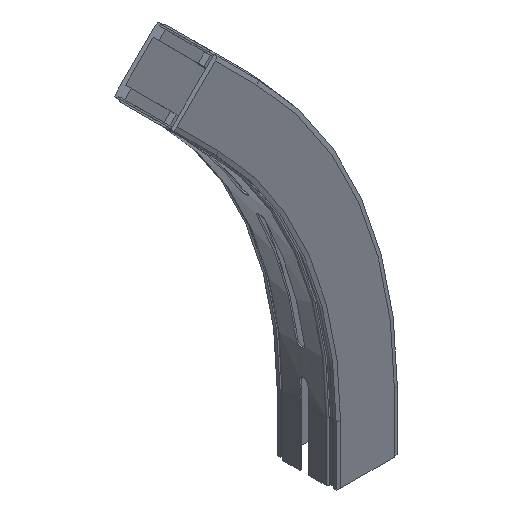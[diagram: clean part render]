
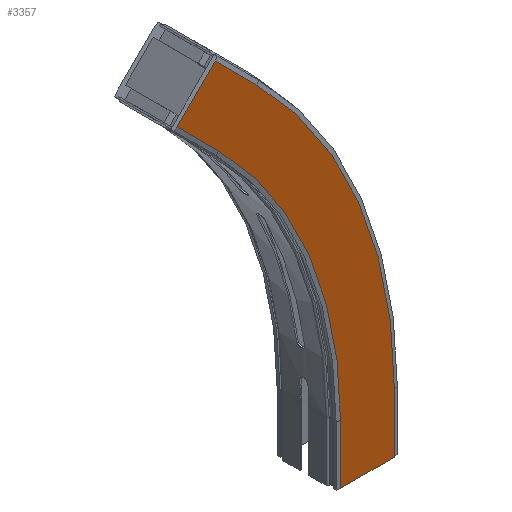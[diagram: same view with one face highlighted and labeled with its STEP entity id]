
A CAD part, isometric view. The second image highlights one B-rep face of the part: STEP entity #3357.
In plain terms, the highlighted planar face has unit normal (0, -1, 0).
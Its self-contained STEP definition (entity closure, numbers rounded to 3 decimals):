
#349=FACE_OUTER_BOUND('',#529,.T.);
#529=EDGE_LOOP('',(#3063,#3064,#3065,#3066,#3067,#3068,#3069,#3070));
#619=CIRCLE('',#3610,636.5);
#622=CIRCLE('',#3616,563.5);
#940=LINE('',#5989,#1286);
#945=LINE('',#5998,#1291);
#947=LINE('',#6003,#1293);
#962=LINE('',#6043,#1308);
#967=LINE('',#6054,#1313);
#968=LINE('',#6056,#1314);
#1286=VECTOR('',#4383,10.);
#1291=VECTOR('',#4390,10.);
#1293=VECTOR('',#4394,10.);
#1308=VECTOR('',#4435,10.);
#1313=VECTOR('',#4448,10.);
#1314=VECTOR('',#4451,10.);
#1610=VERTEX_POINT('',#5986);
#1611=VERTEX_POINT('',#5988);
#1614=VERTEX_POINT('',#5995);
#1615=VERTEX_POINT('',#6000);
#1625=VERTEX_POINT('',#6026);
#1627=VERTEX_POINT('',#6036);
#1628=VERTEX_POINT('',#6041);
#1630=VERTEX_POINT('',#6052);
#2078=EDGE_CURVE('',#1611,#1610,#940,.T.);
#2083=EDGE_CURVE('',#1611,#1614,#945,.T.);
#2085=EDGE_CURVE('',#1610,#1615,#947,.T.);
#2098=EDGE_CURVE('',#1615,#1625,#619,.T.);
#2104=EDGE_CURVE('',#1614,#1627,#622,.T.);
#2106=EDGE_CURVE('',#1625,#1628,#962,.T.);
#2111=EDGE_CURVE('',#1627,#1630,#967,.T.);
#2112=EDGE_CURVE('',#1628,#1630,#968,.T.);
#3063=ORIENTED_EDGE('',*,*,#2112,.T.);
#3064=ORIENTED_EDGE('',*,*,#2111,.F.);
#3065=ORIENTED_EDGE('',*,*,#2104,.F.);
#3066=ORIENTED_EDGE('',*,*,#2083,.F.);
#3067=ORIENTED_EDGE('',*,*,#2078,.T.);
#3068=ORIENTED_EDGE('',*,*,#2085,.T.);
#3069=ORIENTED_EDGE('',*,*,#2098,.T.);
#3070=ORIENTED_EDGE('',*,*,#2106,.T.);
#3186=PLANE('',#3622);
#3357=ADVANCED_FACE('',(#349),#3186,.T.);
#3610=AXIS2_PLACEMENT_3D('',#6028,#4415,#4416);
#3616=AXIS2_PLACEMENT_3D('',#6039,#4430,#4431);
#3622=AXIS2_PLACEMENT_3D('',#6055,#4449,#4450);
#4383=DIRECTION('',(1.,0.,0.));
#4390=DIRECTION('',(0.,0.,1.));
#4394=DIRECTION('',(0.,0.,1.));
#4415=DIRECTION('center_axis',(0.,-1.,0.));
#4416=DIRECTION('ref_axis',(1.,0.,0.));
#4430=DIRECTION('center_axis',(0.,-1.,0.));
#4431=DIRECTION('ref_axis',(1.,0.,0.));
#4435=DIRECTION('',(-0.707,0.,0.707));
#4448=DIRECTION('',(-0.707,0.,0.707));
#4449=DIRECTION('center_axis',(0.,-1.,0.));
#4450=DIRECTION('ref_axis',(0.707,0.,-0.707));
#4451=DIRECTION('',(-0.707,0.,-0.707));
#5986=CARTESIAN_POINT('',(36.5,-11.,0.));
#5988=CARTESIAN_POINT('',(-36.5,-11.,0.));
#5989=CARTESIAN_POINT('',(-36.5,-11.,0.));
#5995=CARTESIAN_POINT('',(-36.5,-11.,80.));
#5998=CARTESIAN_POINT('',(-36.5,-11.,0.));
#6000=CARTESIAN_POINT('',(36.5,-11.,80.));
#6003=CARTESIAN_POINT('',(36.5,-11.,0.));
#6026=CARTESIAN_POINT('',(-149.927,-11.,530.073));
#6028=CARTESIAN_POINT('Origin',(-600.,-11.,80.));
#6036=CARTESIAN_POINT('',(-201.545,-11.,478.455));
#6039=CARTESIAN_POINT('Origin',(-600.,-11.,80.));
#6041=CARTESIAN_POINT('',(-206.495,-11.,586.642));
#6043=CARTESIAN_POINT('',(239.858,-11.,140.289));
#6052=CARTESIAN_POINT('',(-258.114,-11.,535.023));
#6054=CARTESIAN_POINT('',(188.239,-11.,88.67));
#6055=CARTESIAN_POINT('Origin',(239.858,-11.,140.289));
#6056=CARTESIAN_POINT('',(-218.339,-11.,574.798));
